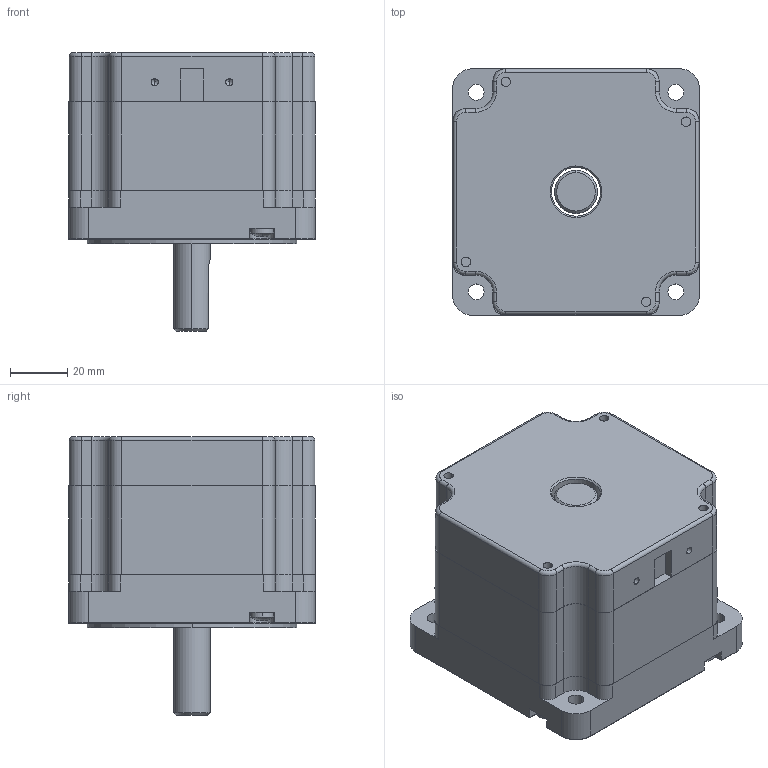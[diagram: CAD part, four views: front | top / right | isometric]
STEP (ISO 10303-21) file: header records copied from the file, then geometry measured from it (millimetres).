
FILE_DESCRIPTION (( 'STEP AP203' ), '1' );
FILE_NAME ('YK86HB65-4232K-01.STEP', '2020-07-29T09:14:40', ( '' ), ( '' ), 'SwSTEP 2.0', 'SolidWorks 2016', '' );
FILE_SCHEMA (( 'CONFIG_CONTROL_DESIGN' ));
Length unit declared in the file: millimetre
Products named in the file (6): YK86ヶ裔; YK86隅赽; YK86粣郋; cross recessed pan head screws gb_GB_CROSS_SCREWS_TYPE1 M4X40-40  H type-N; YK86綴裔; YK86HB65-4232K-01
Assembly tree (8 placements, depth 2):
  YK86HB65-4232K-01
    YK86隅赽
    YK86ヶ裔
    YK86綴裔
    YK86粣郋
    cross recessed pan head screws gb_GB_CROSS_SCREWS_TYPE1 M4X40-40  H type-N  x4
Bounding box: 86 x 86 x 97 mm (x, y, z)
Volume: 349416.6 mm3; surface area: 75930.5 mm2
Topology: 8 solids, 8 shells, 350 faces, 898 edges, 573 vertices
Faces by surface type: cylinder 160, plane 134, cone 27, torus 21, sphere 8
Entity records: 9162 total; most frequent: DIRECTION 1572, CARTESIAN_POINT 1502, ORIENTED_EDGE 1392, EDGE_CURVE 696, AXIS2_PLACEMENT_3D 605, VERTEX_POINT 441, VECTOR 362, LINE 362
